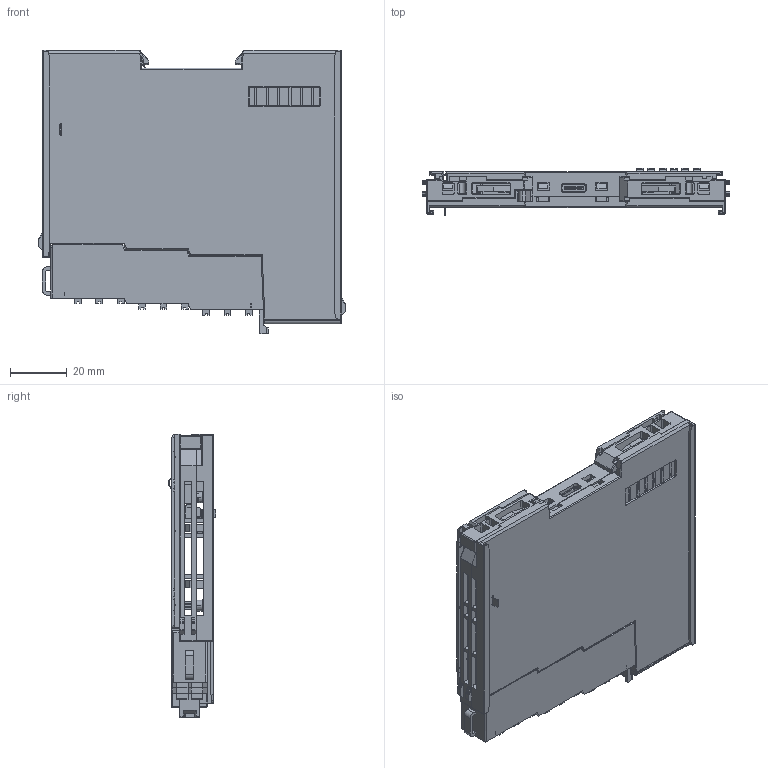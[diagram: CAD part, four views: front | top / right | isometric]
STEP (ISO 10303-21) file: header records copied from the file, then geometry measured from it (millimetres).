
FILE_DESCRIPTION (( 'STEP AP214' ), '1' );
FILE_NAME ('IO_12mm.STEP', '2026-05-10T19:39:25', ( '' ), ( '' ), 'SwSTEP 2.0', 'SolidWorks 2020', '' );
FILE_SCHEMA (( 'AUTOMOTIVE_DESIGN' ));
Length unit declared in the file: millimetre
Products named in the file (18): PK2205-USB.stp; PCB-A15-125MNL.stp; 80740373.stp; CXLJQ-Y-0722.stp; IO_12mm; PCB-A15-125MNL_ASM.stp; PCB-A15-125KZ_ASM.stp; 77559742.stp; 2X9-0131.stp; 80880796.stp; PCB-A15-250KZB1-JX1-250KZB2-SZL.stp; CXLJQ-Z-1216.stp; 77559739.stp; 80740376.stp; PCB-A15-250KZB2-SZL_ASM.stp; 80880795.stp; DDD1.stp; 12mm?IO??.stp
Assembly tree (34 placements, depth 6):
  IO_12mm
    12mm?IO??.stp
      PCB-A15-125KZ_ASM.stp
        PCB-A15-125MNL_ASM.stp
          PCB-A15-250KZB2-SZL_ASM.stp
            PCB-A15-250KZB1-JX1-250KZB2-SZL.stp
            77559739.stp
            77559742.stp
            CXLJQ-Y-0722.stp
            CXLJQ-Z-1216.stp
            DDD1.stp  x18
            PK2205-USB.stp
          PCB-A15-125MNL.stp
      80740373.stp
      80740376.stp
      80880795.stp
      80880796.stp
      2X9-0131.stp
Bounding box: 108 x 16.7 x 99.5 mm (x, y, z)
Volume: 57154 mm3; surface area: 77847.4 mm2
Topology: 54 solids, 58 shells, 7036 faces, 19745 edges, 12805 vertices
Faces by surface type: plane 5307, cylinder 1209, bspline 254, cone 152, torus 78, sphere 36
Entity records: 201168 total; most frequent: CARTESIAN_POINT 55905, ORIENTED_EDGE 31722, DIRECTION 27566, EDGE_CURVE 15865, VECTOR 12074, LINE 12074, VERTEX_POINT 10288, AXIS2_PLACEMENT_3D 7746
